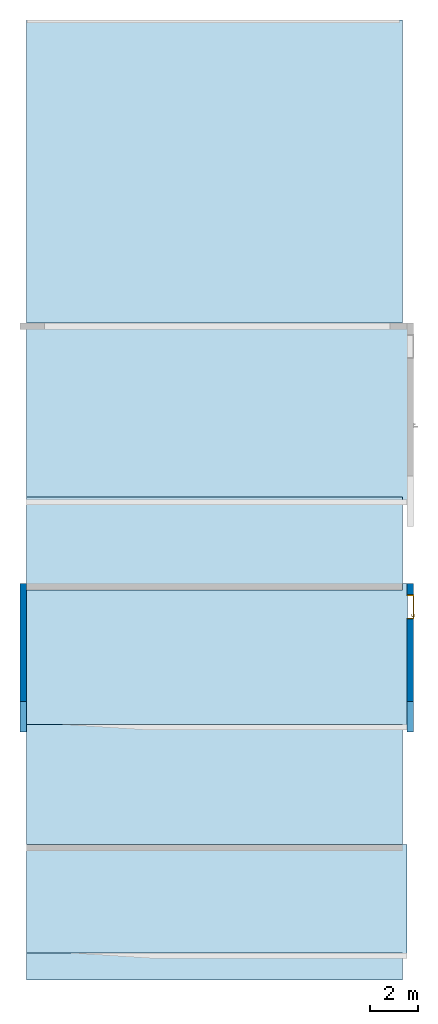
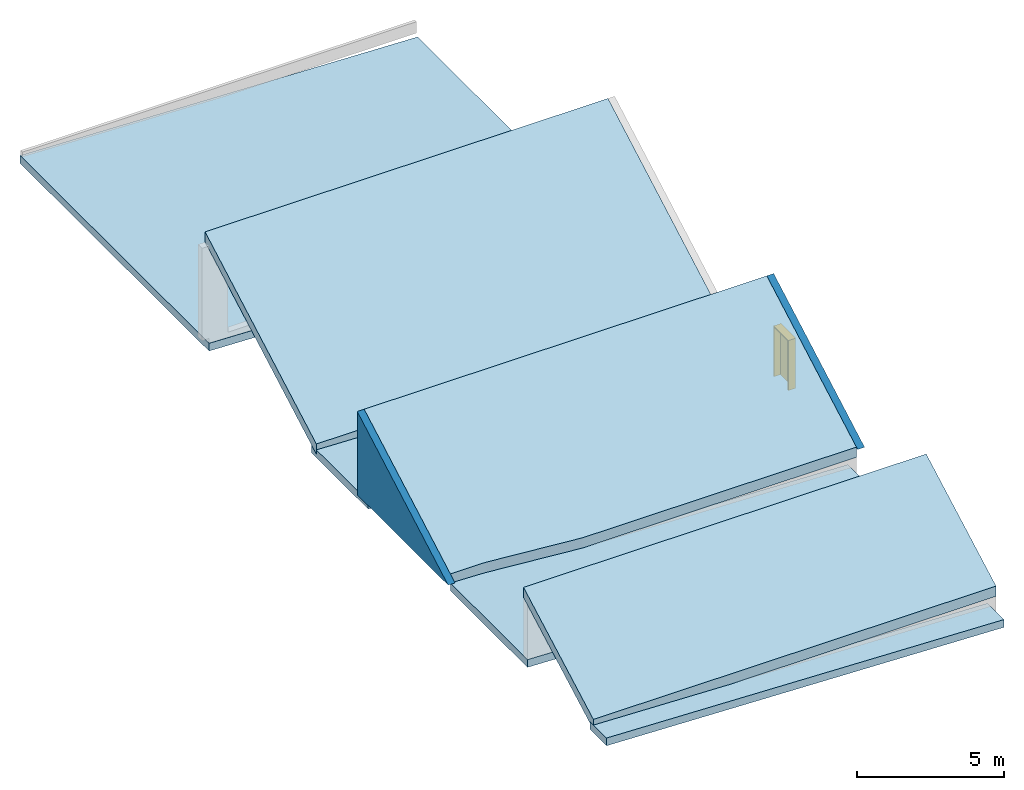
"""IFC2X3 building model written with IfcOpenShell, lengths in centimetres."""

from ifc_helpers import new_model, entity, si_unit, converted_unit, derived_unit, direction, frame, frame_2d, origin, origin_2d_with_axis, place, context, subcontext, project, spatial, polyline, rectangle, outline, extrude, clip, halfspace, faceted_brep, source, transform, mapped, material, material_list, layer, layer_set, layer_usage, type_object, type_shapes, element, fill, aggregate, save


model = new_model("IFC2X3")

# Units and contexts
model_context = context("Model", 3, precision=0.001, world=origin(), true_north=direction((6.12303176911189e-17, 1.0)))
body_context = subcontext(model_context, "Body", "Model", "MODEL_VIEW")
ifc_project = project(units=[si_unit("LENGTHUNIT", "METRE", prefix="CENTI"), si_unit("AREAUNIT", "SQUARE_METRE"), si_unit("VOLUMEUNIT", "CUBIC_METRE"), converted_unit("PLANEANGLEUNIT", "DEGREE", entity("IfcRatioMeasure", 0.0174532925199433), si_unit("PLANEANGLEUNIT", "RADIAN"), dimensions=[0, 0, 0, 0, 0, 0, 0]), si_unit("MASSUNIT", "GRAM", prefix="KILO"), si_unit("TIMEUNIT", "SECOND"), si_unit("FREQUENCYUNIT", "HERTZ"), si_unit("THERMODYNAMICTEMPERATUREUNIT", "DEGREE_CELSIUS"), derived_unit("THERMALTRANSMITTANCEUNIT", [(si_unit("MASSUNIT", "GRAM", prefix="KILO"), 1), (si_unit("THERMODYNAMICTEMPERATUREUNIT", "KELVIN"), -1), (si_unit("TIMEUNIT", "SECOND"), -3)]), derived_unit("VOLUMETRICFLOWRATEUNIT", [(si_unit("LENGTHUNIT", "METRE"), 3), (si_unit("TIMEUNIT", "SECOND"), -1)]), si_unit("ELECTRICCURRENTUNIT", "AMPERE"), si_unit("ELECTRICVOLTAGEUNIT", "VOLT"), si_unit("POWERUNIT", "WATT"), si_unit("FORCEUNIT", "NEWTON", prefix="KILO"), si_unit("ILLUMINANCEUNIT", "LUX"), si_unit("LUMINOUSFLUXUNIT", "LUMEN"), si_unit("LUMINOUSINTENSITYUNIT", "CANDELA"), derived_unit("USERDEFINED", [(si_unit("MASSUNIT", "GRAM", prefix="KILO"), -1), (si_unit("LENGTHUNIT", "METRE"), -2), (si_unit("TIMEUNIT", "SECOND"), 3), (si_unit("LUMINOUSFLUXUNIT", "LUMEN"), 1)]), derived_unit("LINEARVELOCITYUNIT", [(si_unit("LENGTHUNIT", "METRE"), 1), (si_unit("TIMEUNIT", "SECOND"), -1)]), si_unit("PRESSUREUNIT", "PASCAL"), derived_unit("USERDEFINED", [(si_unit("LENGTHUNIT", "METRE"), -2), (si_unit("MASSUNIT", "GRAM", prefix="KILO"), 1), (si_unit("TIMEUNIT", "SECOND"), -2)])], contexts=[model_context])

# Site, building, storey
site_placement = place(None, frame((8.62739174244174, -249.285249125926, 0.0)))
site = spatial("IfcSite", under=ifc_project, at=site_placement, Name="Default", CompositionType="ELEMENT")
building_placement = place(site_placement, origin())
building = spatial("IfcBuilding", under=site, at=building_placement, CompositionType="ELEMENT")
storey_1_placement = place(building_placement, frame((0.0, 0.0, 855.0)))
storey_1 = spatial("IfcBuildingStorey", under=building, at=storey_1_placement, Name="Acrotère EXT2", CompositionType="ELEMENT", Elevation=855.0)

# Roof, slab
roof_1_placement = place(storey_1_placement, frame((1476.90000000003, 4619.51447909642, -37.622015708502)))
roof_1 = element("IfcRoof", 1, at=roof_1_placement, inside=storey_1, Name="Toit de base:MET 5 + ISO 26 + BAC 5", ObjectType="Toit de base:MET 5 + ISO 26 + BAC 5", ShapeType="NOTDEFINED")
ifc_material_1 = material(Name="Tôle/Doublage(PROJET)BLEU")
ifc_layer_1 = layer(ifc_material_1, 5.0)
ifc_material_2 = material(Name="Laine minérale")
ifc_layer_2 = layer(ifc_material_2, 32.0)
ifc_layer_set_1 = layer_set([ifc_layer_1, ifc_layer_2], Name="Toit de base:MET 5 + ISO 26 + BAC 5")
slab_1_placement = place(roof_1_placement, origin())
slab_1 = element("IfcSlab", 2, at=slab_1_placement, material=ifc_layer_set_1, Name="Toit de base:MET 5 + ISO 26 + BAC 5", ObjectType="Toit de base:MET 5 + ISO 26 + BAC 5", PredefinedType="ROOF", context=body_context, shape_type="SweptSolid", body=[
    extrude(outline(polyline([(789.002413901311, 348.342518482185), (-789.002413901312, 348.342518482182), (-789.002413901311, -321.986042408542), (-789.002413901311, -322.029808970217), (-652.335573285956, -322.029808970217), (-284.369080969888, -348.342518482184), (788.002413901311, -348.342518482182), (789.002413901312, -348.342518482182), (789.002413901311, 348.342518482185)])), frame((789.002413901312, 303.98137834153, 170.111233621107), z_axis=(0.0, -0.488344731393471, 0.872650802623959), x_axis=(1.0, 0.0, 0.0)), (0.0, 0.488344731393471, 0.872650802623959), 42.3995484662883),
])
aggregate(roof_1, [slab_1])

roof_2_placement = place(storey_1_placement, frame((1476.90000000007, 3672.48020806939, -38.6754055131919)))
roof_2 = element("IfcRoof", 3, at=roof_2_placement, inside=storey_1, Name="Toit de base:MET 5 + ISO 26 + BAC 5", ObjectType="Toit de base:MET 5 + ISO 26 + BAC 5", ShapeType="NOTDEFINED")
slab_2_placement = place(roof_2_placement, origin())
slab_2 = element("IfcSlab", 4, at=slab_2_placement, material=ifc_layer_set_1, Name="Toit de base:MET 5 + ISO 26 + BAC 5", ObjectType="Toit de base:MET 5 + ISO 26 + BAC 5", PredefinedType="ROOF", context=body_context, shape_type="SweptSolid", body=[
    extrude(rectangle(XDim=1577.00482779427, YDim=540.377898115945, at=frame_2d((-2.27373675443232e-13, 9.9475983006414e-13), x_axis=(1.0, 0.0))), frame((788.502413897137, 236.997551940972, 129.746786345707), z_axis=(0.0, -0.480207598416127, 0.87715486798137), x_axis=(1.0, 0.0, 0.0)), (0.0, 0.480207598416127, 0.87715486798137), 42.1818328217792),
])
aggregate(roof_2, [slab_2])

roof_3_placement = place(storey_1_placement, frame((1476.90482779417, 6279.47742132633, -106.391143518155)))
roof_3 = element("IfcRoof", 5, at=roof_3_placement, inside=storey_1, Name="Toit de base:ET 2 +ISO 25 + BAC 5", ObjectType="Toit de base:ET 2 +ISO 25 + BAC 5", ShapeType="NOTDEFINED")
ifc_material_3 = material(Name="Toiture, membrane EPDM")
ifc_layer_3 = layer(ifc_material_3, 2.0)
ifc_layer_4 = layer(ifc_material_2, 25.0)
ifc_material_4 = material(Name="Acier")
ifc_layer_5 = layer(ifc_material_4, 5.0)
ifc_layer_set_2 = layer_set([ifc_layer_3, ifc_layer_4, ifc_layer_5], Name="Toit de base:ET 2 +ISO 25 + BAC 5")
slab_3_placement = place(roof_3_placement, origin())
slab_3 = element("IfcSlab", 6, at=slab_3_placement, material=ifc_layer_set_2, Name="Toit de base:ET 2 +ISO 25 + BAC 5", ObjectType="Toit de base:ET 2 +ISO 25 + BAC 5", PredefinedType="ROOF", context=body_context, shape_type="SweptSolid", body=[
    extrude(rectangle(XDim=1282.49913008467, YDim=1557.94906047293, at=frame_2d((3.12638803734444e-12, 4.54747350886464e-13), x_axis=(0.0, 1.0))), frame((778.499999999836, 641.249565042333, 27.1858190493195), z_axis=(0.0348994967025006, 0.0, 0.999390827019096), x_axis=(0.999390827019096, 0.0, -0.0348994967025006)), (-0.0348994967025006, 0.0, 0.999390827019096), 32.0195054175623),
])
aggregate(roof_3, [slab_3])

roof_4_placement = place(storey_1_placement, frame((1476.90482779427, 5200.47723577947, -106.391143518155)))
roof_4 = element("IfcRoof", 7, at=roof_4_placement, inside=storey_1, Name="Toit de base:ET 2 +ISO 25 + BAC 5", ObjectType="Toit de base:ET 2 +ISO 25 + BAC 5", ShapeType="NOTDEFINED")
slab_4_placement = place(roof_4_placement, origin())
slab_4 = element("IfcSlab", 8, at=slab_4_placement, material=ifc_layer_set_2, Name="Toit de base:ET 2 +ISO 25 + BAC 5", ObjectType="Toit de base:ET 2 +ISO 25 + BAC 5", PredefinedType="ROOF", context=body_context, shape_type="SweptSolid", body=[
    extrude(rectangle(XDim=384.997625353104, YDim=1557.949060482, at=frame_2d((5.6843418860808e-14, 0.0), x_axis=(0.0, 1.0))), frame((778.500000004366, 192.498812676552, 27.1858190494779), z_axis=(0.0348994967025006, 0.0, 0.999390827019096), x_axis=(0.999390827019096, 0.0, -0.0348994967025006)), (-0.0348994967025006, 0.0, 0.999390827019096), 32.0195054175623),
])
aggregate(roof_4, [slab_4])

roof_5_placement = place(storey_1_placement, frame((1476.90482779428, 4119.47531195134, -106.391143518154)))
roof_5 = element("IfcRoof", 9, at=roof_5_placement, inside=storey_1, Name="Toit de base:ET 2 +ISO 25 + BAC 5", ObjectType="Toit de base:ET 2 +ISO 25 + BAC 5", ShapeType="NOTDEFINED")
slab_5_placement = place(roof_5_placement, origin())
slab_5 = element("IfcSlab", 10, at=slab_5_placement, material=ifc_layer_set_2, Name="Toit de base:ET 2 +ISO 25 + BAC 5", ObjectType="Toit de base:ET 2 +ISO 25 + BAC 5", PredefinedType="ROOF", context=body_context, shape_type="SweptSolid", body=[
    extrude(rectangle(XDim=523.000974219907, YDim=1557.94906048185, at=frame_2d((-2.27373675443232e-13, 0.0), x_axis=(0.0, 1.0))), frame((778.500000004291, 261.500487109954, 27.1858190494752), z_axis=(0.0348994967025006, 0.0, 0.999390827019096), x_axis=(0.999390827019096, 0.0, -0.0348994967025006)), (-0.0348994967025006, 0.0, 0.999390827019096), 32.0195054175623),
])
aggregate(roof_5, [slab_5])

roof_6_placement = place(storey_1_placement, frame((1476.90000000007, 3583.97515921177, -106.391143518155)))
roof_6 = element("IfcRoof", 11, at=roof_6_placement, inside=storey_1, Name="Toit de base:ET 2 +ISO 25 + BAC 5", ObjectType="Toit de base:ET 2 +ISO 25 + BAC 5", ShapeType="NOTDEFINED")
slab_6_placement = place(roof_6_placement, origin())
slab_6 = element("IfcSlab", 12, at=slab_6_placement, material=ifc_layer_set_2, Name="Toit de base:ET 2 +ISO 25 + BAC 5", ObjectType="Toit de base:ET 2 +ISO 25 + BAC 5", PredefinedType="ROOF", context=body_context, shape_type="SweptSolid", body=[
    extrude(rectangle(XDim=1557.94906048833, YDim=111.505048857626, at=origin_2d_with_axis()), frame((778.504827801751, 55.7525244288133, 27.1858190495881), z_axis=(0.0348994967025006, 0.0, 0.999390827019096), x_axis=(0.999390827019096, 0.0, -0.0348994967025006)), (-0.0348994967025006, 0.0, 0.999390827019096), 32.0195054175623),
])
aggregate(roof_6, [slab_6])

roof_7_placement = place(storey_1_placement, frame((1476.90000000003, 5551.65947909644, -38.0196604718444)))
roof_7 = element("IfcRoof", 13, at=roof_7_placement, inside=storey_1, Name="Toit de base:MET 5 + ISO 26 + BAC 5", ObjectType="Toit de base:MET 5 + ISO 26 + BAC 5", ShapeType="NOTDEFINED")
slab_7_placement = place(roof_7_placement, origin())
slab_7 = element("IfcSlab", 14, at=slab_7_placement, material=ifc_layer_set_1, Name="Toit de base:MET 5 + ISO 26 + BAC 5", ObjectType="Toit de base:MET 5 + ISO 26 + BAC 5", PredefinedType="ROOF", context=body_context, shape_type="SweptSolid", body=[
    extrude(rectangle(XDim=1578.00482780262, YDim=864.121773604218, at=frame_2d((2.27373675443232e-13, 2.8421709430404e-14), x_axis=(1.0, 0.0))), frame((789.002413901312, 377.408971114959, 210.330878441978), z_axis=(0.0, -0.486808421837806, 0.873508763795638), x_axis=(1.0, 0.0, 0.0)), (0.0, 0.486808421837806, 0.873508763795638), 42.3579035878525),
])
aggregate(roof_7, [slab_7])

# Wall
ifc_material_5 = material(Name="Tôle/Doublage(PROJET)")
ifc_layer_6 = layer(ifc_material_5, 4.0)
ifc_layer_7 = layer(ifc_material_2, 22.0)
ifc_material_6 = material(Name="Plateau-acier-perforé")
ifc_layer_8 = layer(ifc_material_6, 1.0)
ifc_layer_set_3 = layer_set([ifc_layer_6, ifc_layer_7, ifc_layer_8], Name="Mur de base:MET PROJET 4 + ISO 23 + MET 2 bis")
ifc_layer_usage_1 = layer_usage(ifc_layer_set_3, "AXIS2", "NEGATIVE", 13.5)
wall_type_1 = type_object("IfcWallType", Name="Mur de base:MET PROJET 4 + ISO 23 + MET 2 bis", PredefinedType="STANDARD", material=ifc_layer_set_3)
wall_1_placement = place(storey_1_placement, frame((1463.4048277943, 4610.97723577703, 0.0), z_axis=(0.0, 0.0, 1.0), x_axis=(0.0, 1.0, 0.0)))
element("IfcWallStandardCase", 15, at=wall_1_placement, inside=storey_1, type_object=wall_type_1, material=ifc_layer_usage_1, Name="Mur de base:MET PROJET 4 + ISO 23 + MET 2 bis", ObjectType="Mur de base:MET PROJET 4 + ISO 23 + MET 2 bis", context=body_context, shape_type="Clipping", body=[
    clip(extrude(rectangle(XDim=616.500000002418, YDim=26.9999999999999, at=frame_2d((308.250000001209, -3.81916720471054e-14), x_axis=(-1.0, 0.0))), origin(), (0.0, 0.0, 1.0), 344.999999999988), halfspace(frame((0.0, -13.5, 0.0), z_axis=(-0.488344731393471, 0.0, 0.872650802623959), x_axis=(0.0, 1.0, 0.0)), False)),
])

# Wall, opening
ifc_layer_9 = layer(ifc_material_5, 4.0)
ifc_layer_10 = layer(ifc_material_2, 22.0)
ifc_layer_11 = layer(ifc_material_5, 1.0)
ifc_layer_set_4 = layer_set([ifc_layer_9, ifc_layer_10, ifc_layer_11], Name="Mur de base:MET PROJET 4 + ISO 23 + MET 1")
ifc_layer_usage_2 = layer_usage(ifc_layer_set_4, "AXIS2", "NEGATIVE", 13.5)
wall_type_2 = type_object("IfcWallType", Name="Mur de base:MET PROJET 4 + ISO 23 + MET 1", PredefinedType="NOTDEFINED")
wall_2_placement = place(storey_1_placement, frame((3067.40482780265, 4610.97723577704, 0.0), z_axis=(0.0, 0.0, 1.0), x_axis=(0.0, 1.0, 0.0)))
wall_2 = element("IfcWallStandardCase", 16, at=wall_2_placement, inside=storey_1, type_object=wall_type_2, material=ifc_layer_usage_2, Name="Mur de base:MET PROJET 4 + ISO 23 + MET 1", ObjectType="Mur de base:MET PROJET 4 + ISO 23 + MET 1", context=body_context, shape_type="Clipping", body=[
    clip(extrude(rectangle(XDim=26.9999999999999, YDim=717.582659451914, at=frame_2d((257.708670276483, -2.28261853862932e-13), x_axis=(0.0, -1.0))), origin(), (0.0, 0.0, 1.0), 345.0), halfspace(frame((0.0, -13.4999999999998, 0.0), z_axis=(-0.48834473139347, 0.0, 0.872650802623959), x_axis=(0.0, 1.0, 0.0)), False)),
])
opening_placement = place(wall_2_placement, frame((569.501673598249, 13.5, -41.0)))
opening = element("IfcOpeningElement", 17, at=opening_placement, cuts=wall_2, Name="Simple(R)_bois_mu:93 x 204 cm:1", ObjectType="Opening", context=body_context, shape_type="SweptSolid", body=[
    extrude(rectangle(XDim=207.499999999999, YDim=99.9999999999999, at=frame_2d((103.75, 50.0), x_axis=(1.0, 0.0))), frame((0.0, 0.0, 0.0), z_axis=(0.0, -1.0, 0.0), x_axis=(0.0, 0.0, 1.0)), (0.0, 0.0, 1.0), 27.0),
])

# Storey
storey_2_placement = place(building_placement, frame((0.0, 0.0, 814.0)))
storey_2 = spatial("IfcBuildingStorey", under=building, at=storey_2_placement, Name="814", CompositionType="ELEMENT", Elevation=814.0)

# Door
ifc_material_7 = material(Name="Porte - Poignée")
ifc_material_8 = material(Name="Porte - Cadre")
ifc_material_9 = material(Name="Porte - Panneau")
ifc_material_list_1 = material_list([ifc_material_7, ifc_material_8, ifc_material_9])
ifc_material_list_2 = material_list([ifc_material_7, ifc_material_8, ifc_material_9])
door_style = type_object("IfcDoorStyle", Name="93 x 204 cm", ConstructionType="NOTDEFINED", OperationType="SINGLE_SWING_RIGHT", ParameterTakesPrecedence=False, Sizeable=False, material=ifc_material_list_2)
shared_shape = source(origin(), body_context, "Body", "Brep", [
    faceted_brep([(8.79747013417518, 3.69999999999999, 100.778044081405), (8.3999999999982, 3.69999999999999, 100.699999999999), (8.39999999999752, 3.69999999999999, 99.2999999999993), (8.79747013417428, 3.69999999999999, 99.2219559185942), (9.20252986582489, 3.69999999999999, 99.2219559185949), (9.60000000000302, 3.69999999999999, 99.3000000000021), (9.60000000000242, 3.69999999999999, 100.699999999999), (9.2025298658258, 3.69999999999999, 100.778044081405), (9.60000000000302, 5.94852045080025, 99.3000000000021), (9.60000000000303, 5.94852045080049, 100.699999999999), (9.20252986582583, 6.1131579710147, 100.778044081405), (10.5838906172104, 7.49451872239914, 100.778044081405), (10.4161093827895, 7.89957845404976, 100.778044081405), (8.79747013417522, 6.2809392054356, 100.778044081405), (19.5684749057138, 6.84673156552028, 100.778044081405), (19.8548953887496, 7.13315204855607, 100.778044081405), (19.0884689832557, 7.89957845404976, 100.778044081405), (18.9206877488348, 7.49451872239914, 100.778044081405), (8.39999999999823, 6.44557672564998, 100.699999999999), (8.3999999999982, 6.44557672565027, 99.2999999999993), (8.79747013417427, 6.28093920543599, 99.2219559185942), (10.4161093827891, 7.8995784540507, 99.2219559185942), (10.58389061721, 7.49451872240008, 99.2219559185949), (9.20252986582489, 6.11315797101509, 99.2219559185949), (19.8548953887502, 7.1331520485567, 99.2219559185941), (19.5684749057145, 6.84673156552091, 99.2219559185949), (18.9206877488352, 7.49451872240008, 99.2219559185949), (19.088468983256, 7.8995784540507, 99.2219559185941), (10.7485281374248, 7.09704858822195, 99.3000000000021), (10.748528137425, 7.09704858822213, 100.699999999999), (10.2514718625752, 8.29704858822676, 100.699999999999), (10.2514718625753, 8.29704858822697, 99.2999999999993), (14.7522904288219, 7.09704858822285, 99.3000000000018), (18.7560502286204, 7.09704858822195, 99.3000000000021), (18.7560502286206, 7.09704858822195, 100.699999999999), (14.7522891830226, 7.09704858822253, 100.699999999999), (14.7522891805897, 7.71249275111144, 100.787811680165), (19.25310650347, 8.29704858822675, 100.699999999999), (15.2600577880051, 8.29704858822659, 100.699999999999), (19.2531065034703, 8.29704858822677, 99.2999999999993), (14.2445206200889, 8.29704858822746, 99.2999999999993), (14.7522892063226, 7.71249274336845, 99.2121883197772), (19.2874210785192, 6.56567773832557, 99.3000000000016), (20.1359492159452, 7.41420587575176, 99.2999999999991), (20.135949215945, 7.4142058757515, 100.699999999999), (19.287421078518, 6.56567773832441, 100.699999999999)], [[[0, 1, 2, 3, 4, 5, 6, 7]], [[6, 5, 8, 9]], [[9, 10, 7, 6]], [[10, 11, 12, 13, 0, 7]], [[14, 15, 16, 17]], [[13, 18, 1, 0]], [[2, 1, 18, 19]], [[19, 20, 3, 2]], [[20, 21, 22, 23, 4, 3]], [[24, 25, 26, 27]], [[23, 8, 5, 4]], [[9, 8, 28, 29]], [[29, 11, 10, 9]], [[12, 30, 18, 13]], [[19, 18, 30, 31]], [[31, 21, 20, 19]], [[22, 28, 8, 23]], [[29, 28, 32, 33, 34, 35]], [[11, 35, 36]], [[16, 37, 38]], [[30, 12, 38]], [[38, 12, 36]], [[36, 35, 17]], [[17, 16, 36]], [[35, 11, 29]], [[34, 17, 35]], [[11, 36, 12]], [[38, 36, 16]], [[31, 30, 38, 37, 39, 40]], [[40, 41, 21]], [[41, 40, 27]], [[21, 31, 40]], [[39, 27, 40]], [[41, 32, 22]], [[22, 21, 41]], [[26, 32, 41]], [[28, 22, 32]], [[32, 26, 33]], [[26, 41, 27]], [[42, 25, 24, 43, 44, 15, 14, 45]], [[34, 33, 42, 45]], [[45, 14, 17, 34]], [[15, 44, 37, 16]], [[39, 37, 44, 43]], [[43, 24, 27, 39]], [[25, 42, 33, 26]]]),
    faceted_brep([(8.79747013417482, -1.30000000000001, 100.778044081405), (9.20252986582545, -1.30000000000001, 100.778044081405), (9.6000000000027, -1.30000000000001, 100.699999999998), (9.60000000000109, -1.30000000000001, 99.3000000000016), (9.20252986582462, -1.30000000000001, 99.2219559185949), (8.79747013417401, -1.30000000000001, 99.2219559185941), (8.39999999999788, -1.30000000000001, 99.2999999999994), (8.39999999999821, -1.30000000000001, 100.699999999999), (8.39999999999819, -4.06509507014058, 100.699999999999), (8.7974701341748, -3.90045754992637, 100.778044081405), (10.402358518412, -5.50534593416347, 100.778044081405), (10.5701397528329, -5.10028620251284, 100.778044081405), (9.20252986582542, -3.73267631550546, 100.778044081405), (19.852181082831, -4.73891952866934, 100.778044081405), (19.5657605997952, -4.4524990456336, 100.778044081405), (18.9179734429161, -5.10028620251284, 100.778044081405), (19.085754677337, -5.50534593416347, 100.778044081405), (9.60000000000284, -3.56803879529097, 100.699999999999), (9.6000000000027, -3.56803879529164, 99.3000000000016), (9.20252986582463, -3.7326763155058, 99.2219559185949), (10.5701397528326, -5.10028620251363, 99.2219559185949), (10.4023585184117, -5.50534593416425, 99.2219559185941), (8.79747013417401, -3.9004575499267, 99.2219559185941), (19.5657605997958, -4.45249904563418, 99.2219559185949), (19.8521810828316, -4.73891952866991, 99.2219559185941), (19.0857546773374, -5.50534593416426, 99.2219559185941), (18.9179734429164, -5.10028620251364, 99.2219559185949), (8.39999999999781, -4.06509507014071, 99.2999999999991), (10.2377209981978, -5.90281606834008, 100.699999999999), (10.7347772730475, -4.70281606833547, 100.699999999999), (10.7347772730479, -4.70281606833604, 99.3000000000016), (10.2377209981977, -5.90281606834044, 99.2999999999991), (14.2307697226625, -5.90281606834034, 100.699999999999), (14.7440566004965, -5.31828027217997, 100.787811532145), (19.2503921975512, -5.90281606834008, 100.699999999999), (14.7440565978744, -4.70281606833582, 100.699999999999), (18.7533359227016, -4.70281606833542, 100.699999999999), (18.7533359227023, -4.70281606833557, 99.3000000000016), (14.7440563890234, -4.70281606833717, 99.3000000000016), (14.744056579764, -5.31828027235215, 99.2121884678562), (19.2503921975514, -5.90281606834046, 99.2999999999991), (15.2573433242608, -5.90281606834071, 99.2999999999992), (19.2847067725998, -4.1714452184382, 100.699999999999), (20.1332349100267, -5.01997335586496, 100.699999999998), (20.1332349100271, -5.01997335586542, 99.2999999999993), (19.2847067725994, -4.17144521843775, 99.3000000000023)], [[[0, 1, 2, 3, 4, 5, 6, 7]], [[8, 9, 0, 7]], [[9, 10, 11, 12, 1, 0]], [[13, 14, 15, 16]], [[12, 17, 2, 1]], [[3, 2, 17, 18]], [[18, 19, 4, 3]], [[19, 20, 21, 22, 5, 4]], [[23, 24, 25, 26]], [[22, 27, 6, 5]], [[7, 6, 27, 8]], [[28, 10, 9, 8]], [[11, 29, 17, 12]], [[18, 17, 29, 30]], [[30, 20, 19, 18]], [[21, 31, 27, 22]], [[8, 27, 31, 28]], [[32, 33, 10]], [[33, 32, 16]], [[10, 28, 32]], [[34, 16, 32]], [[33, 35, 11]], [[11, 10, 33]], [[15, 35, 33]], [[29, 11, 35]], [[35, 15, 36]], [[15, 33, 16]], [[30, 29, 35, 36, 37, 38]], [[20, 38, 39]], [[25, 40, 41]], [[31, 21, 41]], [[41, 21, 39]], [[39, 38, 26]], [[26, 25, 39]], [[38, 20, 30]], [[37, 26, 38]], [[20, 39, 21]], [[41, 39, 25]], [[28, 31, 41, 40, 34, 32]], [[42, 14, 13, 43, 44, 24, 23, 45]], [[43, 13, 16, 34]], [[14, 42, 36, 15]], [[37, 36, 42, 45]], [[45, 23, 26, 37]], [[24, 44, 40, 25]], [[34, 40, 44, 43]]]),
    faceted_brep([(10.03527618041, 3.19999999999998, 86.6003983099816), (11.0, 3.19999999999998, 87.0), (11.0, 3.19999999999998, 108.0), (10.03527618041, 3.19999999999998, 108.399601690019), (9.0, 3.19999999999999, 108.535898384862), (7.96472381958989, 3.19999999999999, 108.399601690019), (7.0, 3.19999999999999, 108.0), (7.0, 3.19999999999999, 87.0), (7.96472381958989, 3.19999999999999, 86.6003983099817), (9.0, 3.19999999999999, 86.4641016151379), (10.03527618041, 3.69999999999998, 108.399601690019), (11.0, 3.69999999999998, 108.0), (11.0, 3.69999999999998, 87.0), (10.03527618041, 3.69999999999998, 86.6003983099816), (9.0, 3.69999999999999, 86.4641016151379), (7.96472381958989, 3.69999999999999, 86.6003983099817), (7.0, 3.69999999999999, 87.0), (7.0, 3.69999999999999, 108.0), (7.96472381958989, 3.69999999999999, 108.399601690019), (9.0, 3.69999999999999, 108.535898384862)], [[[0, 1, 2, 3, 4, 5, 6, 7, 8, 9]], [[10, 11, 12, 13, 14, 15, 16, 17, 18, 19]], [[11, 10, 3, 2]], [[3, 10, 19, 4]], [[19, 18, 5, 4]], [[18, 17, 6, 5]], [[7, 6, 17, 16]], [[16, 15, 8, 7]], [[8, 15, 14, 9]], [[14, 13, 0, 9]], [[13, 12, 1, 0]], [[2, 1, 12, 11]]]),
    faceted_brep([(10.03527618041, -1.30000000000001, 86.6003983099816), (11.0, -1.30000000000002, 87.0), (11.0, -1.30000000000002, 108.0), (10.03527618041, -1.30000000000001, 108.399601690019), (9.0, -1.30000000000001, 108.535898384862), (7.9647238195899, -1.30000000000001, 108.399601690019), (7.0, -1.3, 108.0), (7.0, -1.3, 87.0), (7.96472381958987, -1.30000000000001, 86.6003983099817), (9.0, -1.30000000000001, 86.4641016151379), (10.03527618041, -0.800000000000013, 108.399601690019), (11.0, -0.800000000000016, 108.0), (11.0, -0.800000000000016, 87.0), (10.03527618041, -0.800000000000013, 86.6003983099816), (9.0, -0.800000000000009, 86.4641016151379), (7.96472381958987, -0.800000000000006, 86.6003983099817), (7.0, -0.800000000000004, 87.0), (7.0, -0.800000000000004, 108.0), (7.9647238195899, -0.800000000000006, 108.399601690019), (9.0, -0.800000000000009, 108.535898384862)], [[[0, 1, 2, 3, 4, 5, 6, 7, 8, 9]], [[10, 11, 12, 13, 14, 15, 16, 17, 18, 19]], [[16, 15, 8, 7]], [[8, 15, 14, 9]], [[14, 13, 0, 9]], [[13, 12, 1, 0]], [[2, 1, 12, 11]], [[11, 10, 3, 2]], [[3, 10, 19, 4]], [[19, 18, 5, 4]], [[18, 17, 6, 5]], [[7, 6, 17, 16]]]),
    faceted_brep([(0.0, 0.0, 0.0), (0.0, 27.0, 0.0), (-1.0, 27.0, 0.0), (-1.0, 27.8000000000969, 0.0), (4.49999999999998, 27.8000000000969, 0.0), (4.49999999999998, 3.20000000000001, 0.0), (3.49999999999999, 3.20000000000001, 0.0), (3.49999999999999, -0.799999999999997, 0.0), (-1.0, -0.799999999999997, 0.0), (-1.0, 0.0, 0.0), (0.0, 0.0, 207.499999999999), (0.0, 27.0, 207.499999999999), (100.0, 27.0, 207.499999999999), (100.0, 27.0, 0.0), (101.0, 27.0, 0.0), (101.0, 27.0, 208.499999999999), (-1.0, 27.0, 208.499999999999), (-1.0, 27.8000000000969, 208.499999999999), (101.0, 27.8000000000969, 208.499999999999), (101.0, 27.8000000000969, 0.0), (95.5, 27.8000000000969, 0.0), (95.5, 27.8000000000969, 203.0), (4.49999999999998, 27.8000000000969, 203.0), (4.49999999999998, 3.20000000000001, 203.0), (95.5, 3.20000000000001, 203.0), (95.5, 3.20000000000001, 0.0), (96.5, 3.20000000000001, 0.0), (96.5, 3.20000000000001, 204.0), (3.49999999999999, 3.20000000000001, 204.0), (3.49999999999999, -0.799999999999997, 204.0), (96.5, -0.799999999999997, 204.0), (96.5, -0.799999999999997, 0.0), (101.0, -0.799999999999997, 0.0), (101.0, -0.799999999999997, 208.499999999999), (-1.0, -0.799999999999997, 208.499999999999), (-1.0, 0.0, 208.499999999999), (101.0, 0.0, 208.499999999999), (101.0, 0.0, 0.0), (100.0, 0.0, 0.0), (100.0, 0.0, 207.499999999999)], [[[0, 1, 2, 3, 4, 5, 6, 7, 8, 9]], [[1, 0, 10, 11]], [[2, 1, 11, 12, 13, 14, 15, 16]], [[3, 2, 16, 17]], [[4, 3, 17, 18, 19, 20, 21, 22]], [[5, 4, 22, 23]], [[6, 5, 23, 24, 25, 26, 27, 28]], [[7, 6, 28, 29]], [[8, 7, 29, 30, 31, 32, 33, 34]], [[9, 8, 34, 35]], [[0, 9, 35, 36, 37, 38, 39, 10]], [[12, 39, 38, 13]], [[38, 37, 32, 31, 26, 25, 20, 19, 14, 13]], [[18, 15, 14, 19]], [[24, 21, 20, 25]], [[30, 27, 26, 31]], [[36, 33, 32, 37]], [[11, 10, 39, 12]], [[17, 16, 15, 18]], [[23, 22, 21, 24]], [[29, 28, 27, 30]], [[35, 34, 33, 36]]]),
    faceted_brep([(3.49999999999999, -0.799999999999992, 204.0), (3.49999999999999, -0.799999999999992, 0.0), (96.5, -0.799999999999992, 0.0), (96.5, -0.799999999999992, 204.0), (3.49999999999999, 3.20000000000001, 204.0), (96.5, 3.20000000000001, 204.0), (96.5, 3.20000000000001, 0.0), (3.49999999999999, 3.20000000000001, 0.0)], [[[0, 1, 2, 3]], [[4, 5, 6, 7]], [[1, 0, 4, 7]], [[2, 1, 7, 6]], [[3, 2, 6, 5]], [[0, 3, 5, 4]]]),
])
type_shapes(door_style, [shared_shape])
door_placement = place(opening_placement, frame((-100.0, -27.0, 0.0)))
door = element("IfcDoor", 18, at=door_placement, inside=storey_2, type_object=door_style, material=ifc_material_list_1, Name="Simple(R)_bois_mu:93 x 204 cm", ObjectType="93 x 204 cm", OverallHeight=207.499999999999, OverallWidth=99.9999999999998, context=body_context, shape_type="MappedRepresentation", body=[
    mapped(shared_shape, transform((0.0, 0.0, 0.0), scale=1.0)),
])

fill(opening, door)

save(model, "model.ifc")
